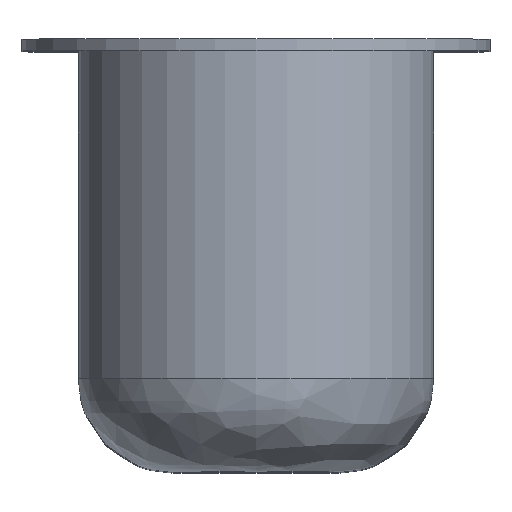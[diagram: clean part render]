
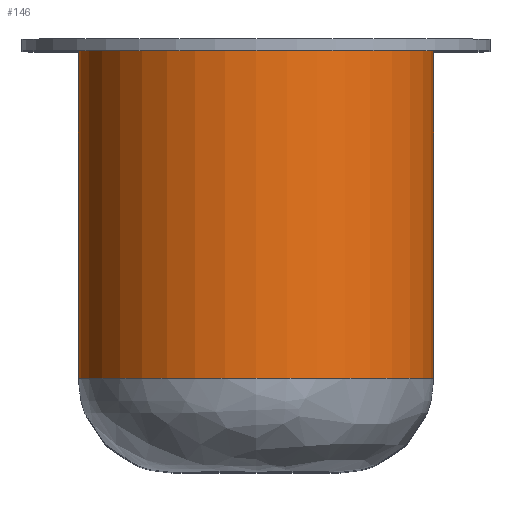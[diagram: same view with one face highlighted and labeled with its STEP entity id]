
A CAD part, top view. The second image highlights one B-rep face of the part: STEP entity #146.
In plain terms, the highlighted cylindrical face has radius 3.8 mm (diameter 7.6 mm), a full revolution.
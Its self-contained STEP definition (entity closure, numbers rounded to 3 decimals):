
#25=LINE('',#287,#29);
#29=VECTOR('',#208,3.8);
#33=CYLINDRICAL_SURFACE('',#176,3.8);
#38=FACE_OUTER_BOUND('',#50,.T.);
#50=EDGE_LOOP('',(#112,#113,#114,#115,#116));
#65=CIRCLE('',#174,3.8);
#66=CIRCLE('',#175,3.8);
#67=CIRCLE('',#177,3.8);
#78=VERTEX_POINT('',#280);
#79=VERTEX_POINT('',#282);
#80=VERTEX_POINT('',#286);
#91=EDGE_CURVE('',#78,#79,#65,.T.);
#92=EDGE_CURVE('',#79,#78,#66,.T.);
#93=EDGE_CURVE('',#79,#80,#25,.T.);
#94=EDGE_CURVE('',#80,#80,#67,.T.);
#112=ORIENTED_EDGE('',*,*,#92,.F.);
#113=ORIENTED_EDGE('',*,*,#93,.T.);
#114=ORIENTED_EDGE('',*,*,#94,.F.);
#115=ORIENTED_EDGE('',*,*,#93,.F.);
#116=ORIENTED_EDGE('',*,*,#91,.F.);
#146=ADVANCED_FACE('',(#38),#33,.T.);
#174=AXIS2_PLACEMENT_3D('',#283,#202,#203);
#175=AXIS2_PLACEMENT_3D('',#284,#204,#205);
#176=AXIS2_PLACEMENT_3D('',#285,#206,#207);
#177=AXIS2_PLACEMENT_3D('',#288,#209,#210);
#202=DIRECTION('center_axis',(0.,-1.,0.));
#203=DIRECTION('ref_axis',(-1.,0.,0.));
#204=DIRECTION('center_axis',(0.,-1.,0.));
#205=DIRECTION('ref_axis',(-1.,0.,0.));
#206=DIRECTION('center_axis',(0.,-1.,0.));
#207=DIRECTION('ref_axis',(-1.,0.,0.));
#208=DIRECTION('',(0.,1.,0.));
#209=DIRECTION('center_axis',(0.,1.,0.));
#210=DIRECTION('ref_axis',(-1.,0.,0.));
#280=CARTESIAN_POINT('',(158.125,88.516,28.92));
#282=CARTESIAN_POINT('',(161.925,88.516,25.12));
#283=CARTESIAN_POINT('Origin',(158.125,88.516,25.12));
#284=CARTESIAN_POINT('Origin',(158.125,88.516,25.12));
#285=CARTESIAN_POINT('Origin',(158.125,95.516,25.12));
#286=CARTESIAN_POINT('',(161.925,95.516,25.12));
#287=CARTESIAN_POINT('',(161.925,95.516,25.12));
#288=CARTESIAN_POINT('Origin',(158.125,95.516,25.12));
